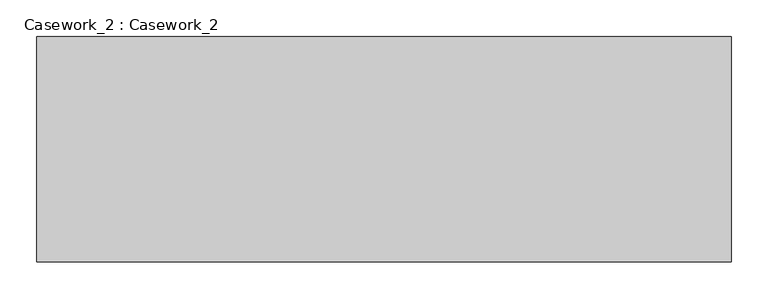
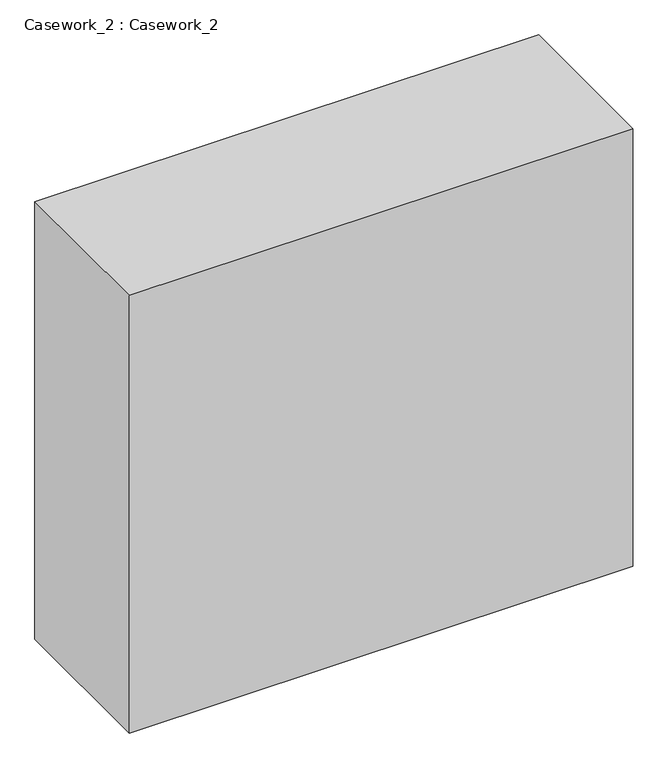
"""IFC4 building model written with IfcOpenShell, lengths in millimetres: furniture geometry, Casework_2 : Casework_2."""

from ifc_helpers import new_model, si_unit, origin, origin_with_axes, place, context, project, spatial, polyline, outline, extrude, source, transform, mapped, element, save


def casework_2_casework_2_be9bbc3e(model_context):
    return source(origin(), model_context, "Body", "SweptSolid", [
        extrude(outline(polyline([(469.9, 0.0), (-469.9, 0.0), (-469.9, 304.8), (469.9, 304.8), (469.9, 0.0)])), origin_with_axes(), (0.0, 0.0, 1.0), 863.6),
    ])


if __name__ == "__main__":
    model = new_model("IFC4")
    model_context = context("Model", 3, world=origin())
    ifc_project = project(units=[si_unit("LENGTHUNIT", "METRE", prefix="MILLI")], contexts=[model_context])
    site = spatial("IfcSite", under=ifc_project)
    building = spatial("IfcBuilding", under=site)
    placement = place(None, origin())
    casework_2_casework_2_shape = casework_2_casework_2_be9bbc3e(model_context)
    element("IfcFurniture", 1, ObjectType="Casework_2 : Casework_2", at=placement, inside=building, context=model_context, shape_type="MappedRepresentation", body=[
        mapped(casework_2_casework_2_shape, transform((0.0, 0.0, 0.0), x_axis=(1.0, 0.0, 0.0), y_axis=(0.0, 1.0, 0.0), z_axis=(0.0, 0.0, 1.0))),
    ])
    save(model, "model.ifc")
